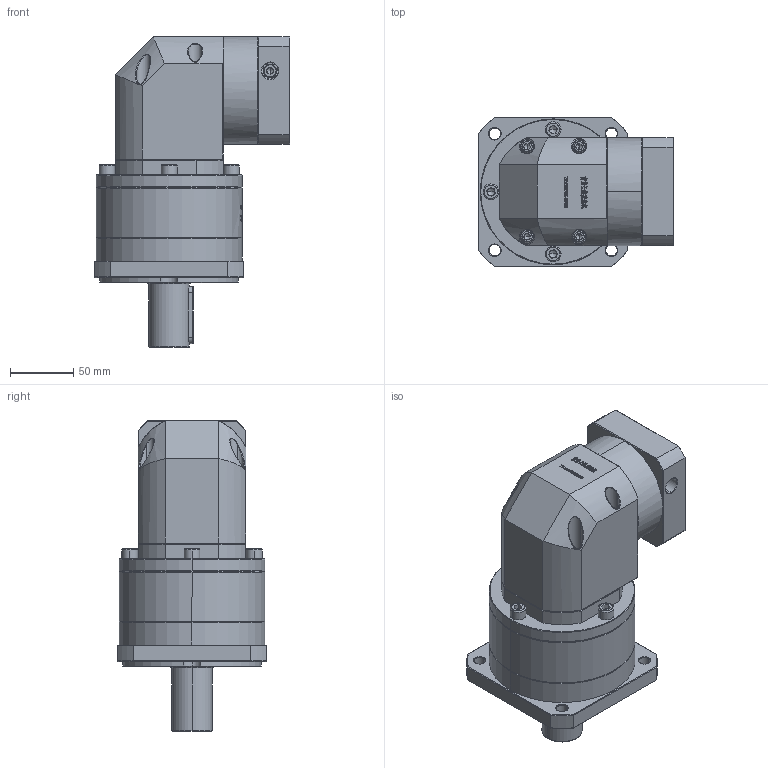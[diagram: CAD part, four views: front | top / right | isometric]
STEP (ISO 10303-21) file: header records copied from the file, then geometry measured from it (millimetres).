
FILE_DESCRIPTION (( 'STEP AP214' ), '1' );
FILE_NAME ('ZFR120A-D32-L2-12.7-73-69.5X69.5-M6.step', '2023-03-08T05:47:48', ( '' ), ( '' ), 'SwSTEP 2.0', 'SolidWorks 2016', '' );
FILE_SCHEMA (( 'AUTOMOTIVE_DESIGN' ));
Length unit declared in the file: millimetre
Products named in the file (1): ZFR120A-D32-L2-12.7-73-69.5X69.5-M6
Bounding box: 154.1 x 118 x 245 mm (x, y, z)
Volume: 1868496.3 mm3; surface area: 171632.7 mm2
Topology: 6 solids, 6 shells, 2998 faces, 7951 edges, 5099 vertices
Faces by surface type: plane 1578, bspline 625, cylinder 453, cone 328, torus 14
Entity records: 163808 total; most frequent: CARTESIAN_POINT 62450, ORIENTED_EDGE 15810, DIRECTION 11636, EDGE_CURVE 7905, VERTEX_POINT 5099, LINE 4928, VECTOR 4928, AXIS2_PLACEMENT_3D 3354
